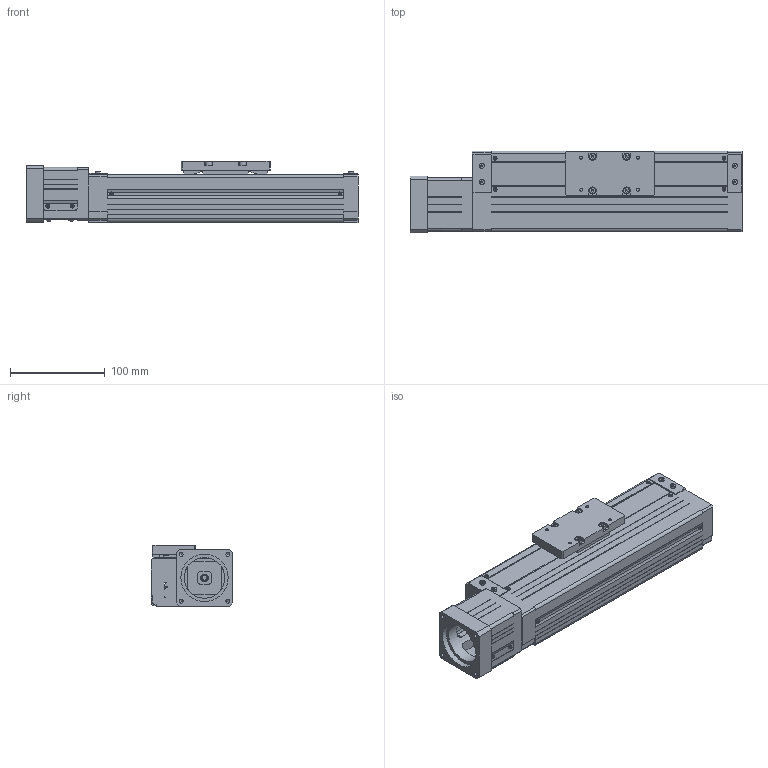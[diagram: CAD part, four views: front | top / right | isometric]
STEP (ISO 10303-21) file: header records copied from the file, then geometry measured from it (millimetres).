
FILE_DESCRIPTION((''),'2;1');
FILE_NAME('D:\製品 (図面)\カタログ用3D\SU部品\SU85×65\ダウンロード用\SU85×65-MB60\SU85×65-150-MB60.stp','2011-07-01T17:33:20',('Tsuchiya'),(''),'Autodesk Inventor 10','Autodesk Inventor 10','');
FILE_SCHEMA(('AUTOMOTIVE_DESIGN { 1 0 10303 214 1 1 1 1 }'));
Length unit declared in the file: millimetre
Products named in the file (3): SU85×65-150-MB60; SU85×65-150-MB601; SU85×65-150-MB602
Assembly tree (2 placements, depth 2):
  SU85×65-150-MB60
    SU85×65-150-MB601
    SU85×65-150-MB602
Bounding box: 351 x 86.45 x 65 mm (x, y, z)
Volume: 735162.2 mm3; surface area: 228522.1 mm2
Topology: 8 solids, 8 shells, 829 faces, 2202 edges, 1426 vertices
Faces by surface type: plane 699, cylinder 96, cone 18, torus 12, bspline 4
Full cylindrical faces by diameter (mm): 3.242 x4, 4 x4, 4.134 x8, 4.5 x4, 5.5 x4, 6 x1, 7 x4, 8 x1, 11.5 x1, 12 x1, 13 x1, 43 x1, 50 x1
Entity records: 25462 total; most frequent: CARTESIAN_POINT 5139, ORIENTED_EDGE 4206, DIRECTION 3976, EDGE_CURVE 2103, VECTOR 1714, LINE 1714, VERTEX_POINT 1396, AXIS2_PLACEMENT_3D 1131
